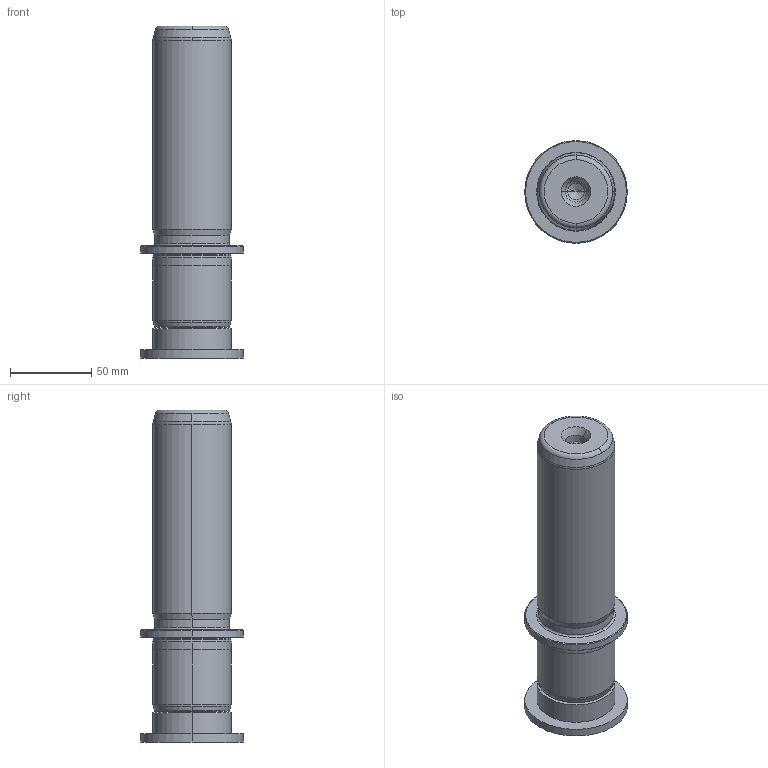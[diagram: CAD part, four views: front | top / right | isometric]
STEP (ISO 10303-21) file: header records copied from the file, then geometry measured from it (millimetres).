
FILE_DESCRIPTION((''),'2;1');
FILE_NAME('P22_048_140.stp','2009-11-02T10:36:22',(''),(''),'Mechanical Desktop 2009','Mechanical Desktop 2009',', , ');
FILE_SCHEMA(('CONFIG_CONTROL_DESIGN'));
Length unit declared in the file: millimetre
Products named in the file (2): Product; blmdl1
Assembly tree (1 placements, depth 2):
  Product
    blmdl1
Bounding box: 63 x 63 x 204 mm (x, y, z)
Volume: 371076.9 mm3; surface area: 48592.3 mm2
Topology: 3 solids, 3 shells, 99 faces, 237 edges, 149 vertices
Faces by surface type: cylinder 32, cone 28, plane 19, torus 10, bspline 10
Entity records: 3419 total; most frequent: CARTESIAN_POINT 923, DIRECTION 570, ORIENTED_EDGE 466, AXIS2_PLACEMENT_3D 246, EDGE_CURVE 233, CIRCLE 155, VERTEX_POINT 149, EDGE_LOOP 110
